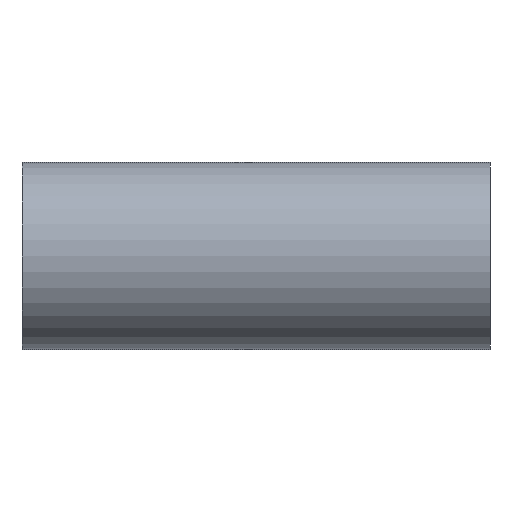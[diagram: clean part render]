
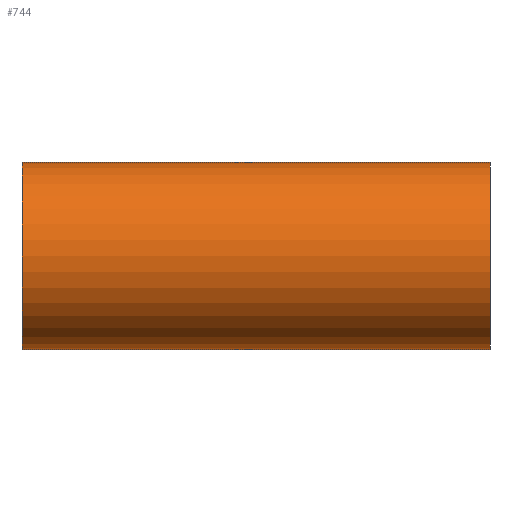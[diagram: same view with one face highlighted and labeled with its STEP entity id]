
A CAD part, front view. The second image highlights one B-rep face of the part: STEP entity #744.
In plain terms, the highlighted cylindrical face has radius 31.75 mm (diameter 63.5 mm), a partial arc.
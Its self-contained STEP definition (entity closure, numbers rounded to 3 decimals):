
#27 = VECTOR ( 'NONE', #57, 1000. ) ;
#48 = CARTESIAN_POINT ( 'NONE',  ( -79.4, 0., 31.75 ) ) ;
#57 = DIRECTION ( 'NONE',  ( 1., 0., 0. ) ) ;
#81 = LINE ( 'NONE', #48, #27 ) ;
#90 = CARTESIAN_POINT ( 'NONE',  ( -79.4, 0., 0. ) ) ;
#239 = ORIENTED_EDGE ( 'NONE', *, *, #346, .T. ) ;
#329 = LINE ( 'NONE', #1795, #1917 ) ;
#341 = DIRECTION ( 'NONE',  ( 0., 0., -1. ) ) ;
#346 = EDGE_CURVE ( 'NONE', #424, #1780, #329, .T. ) ;
#391 = ORIENTED_EDGE ( 'NONE', *, *, #878, .T. ) ;
#410 = CYLINDRICAL_SURFACE ( 'NONE', #1161, 31.75 ) ;
#424 = VERTEX_POINT ( 'NONE', #718 ) ;
#559 = VERTEX_POINT ( 'NONE', #575 ) ;
#575 = CARTESIAN_POINT ( 'NONE',  ( -79.4, 0., 31.75 ) ) ;
#577 = ORIENTED_EDGE ( 'NONE', *, *, #737, .F. ) ;
#718 = CARTESIAN_POINT ( 'NONE',  ( -79.4, 0., -31.75 ) ) ;
#737 = EDGE_CURVE ( 'NONE', #559, #1736, #81, .T. ) ;
#744 = ADVANCED_FACE ( 'NONE', ( #868 ), #410, .T. ) ;
#763 = EDGE_CURVE ( 'NONE', #1780, #1736, #768, .T. ) ;
#768 = CIRCLE ( 'NONE', #1054, 31.75 ) ;
#785 = DIRECTION ( 'NONE',  ( 1., 0., 0. ) ) ;
#868 = FACE_OUTER_BOUND ( 'NONE', #1349, .T. ) ;
#878 = EDGE_CURVE ( 'NONE', #559, #424, #1130, .T. ) ;
#948 = CARTESIAN_POINT ( 'NONE',  ( 79.4, 0., 31.75 ) ) ;
#1054 = AXIS2_PLACEMENT_3D ( 'NONE', #1629, #1532, #1516 ) ;
#1130 = CIRCLE ( 'NONE', #1683, 31.75 ) ;
#1161 = AXIS2_PLACEMENT_3D ( 'NONE', #1893, #1868, #341 ) ;
#1279 = ORIENTED_EDGE ( 'NONE', *, *, #763, .T. ) ;
#1349 = EDGE_LOOP ( 'NONE', ( #577, #391, #239, #1279 ) ) ;
#1445 = CARTESIAN_POINT ( 'NONE',  ( 79.4, 0., -31.75 ) ) ;
#1516 = DIRECTION ( 'NONE',  ( 0., 0., -1. ) ) ;
#1532 = DIRECTION ( 'NONE',  ( -1., 0., 0. ) ) ;
#1610 = DIRECTION ( 'NONE',  ( 1., 0., 0. ) ) ;
#1629 = CARTESIAN_POINT ( 'NONE',  ( 79.4, 0., 0. ) ) ;
#1651 = DIRECTION ( 'NONE',  ( 0., 0., -1. ) ) ;
#1683 = AXIS2_PLACEMENT_3D ( 'NONE', #90, #1610, #1651 ) ;
#1736 = VERTEX_POINT ( 'NONE', #948 ) ;
#1780 = VERTEX_POINT ( 'NONE', #1445 ) ;
#1795 = CARTESIAN_POINT ( 'NONE',  ( -79.4, 0., -31.75 ) ) ;
#1868 = DIRECTION ( 'NONE',  ( 1., 0., 0. ) ) ;
#1893 = CARTESIAN_POINT ( 'NONE',  ( -79.4, 0., 0. ) ) ;
#1917 = VECTOR ( 'NONE', #785, 1000. ) ;
